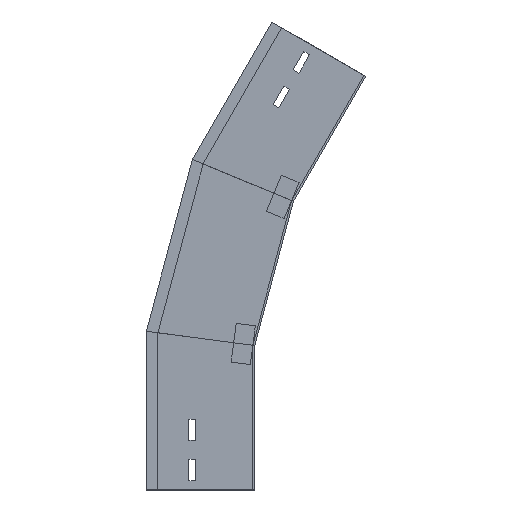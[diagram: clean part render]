
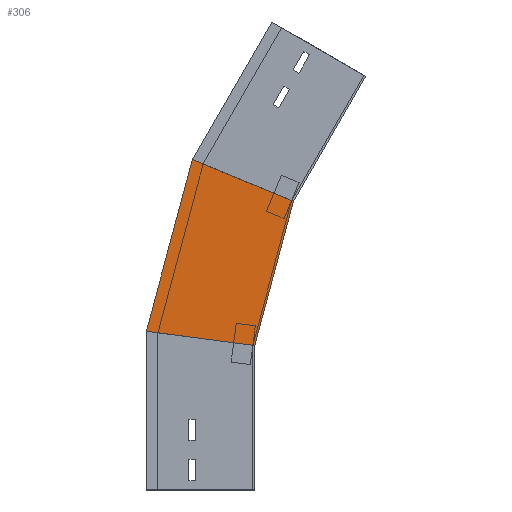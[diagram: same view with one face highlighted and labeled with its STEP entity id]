
A CAD part, left-side view. The second image highlights one B-rep face of the part: STEP entity #306.
In plain terms, the highlighted planar face has unit normal (-1, 0, 0) as drawn and (1, 0, 0) by its records, which use the part's own axes.
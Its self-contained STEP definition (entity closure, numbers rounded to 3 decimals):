
#52 = LINE ( 'NONE', #189, #491 ) ;
#60 = LINE ( 'NONE', #782, #1215 ) ;
#72 = VERTEX_POINT ( 'NONE', #988 ) ;
#80 = ORIENTED_EDGE ( 'NONE', *, *, #1023, .T. ) ;
#109 = LINE ( 'NONE', #918, #882 ) ;
#113 = AXIS2_PLACEMENT_3D ( 'NONE', #535, #998, #510 ) ;
#189 = CARTESIAN_POINT ( 'NONE',  ( 0., 4.243, 134.167 ) ) ;
#198 = ORIENTED_EDGE ( 'NONE', *, *, #804, .T. ) ;
#306 = ADVANCED_FACE ( 'NONE', ( #590 ), #1241, .T. ) ;
#312 = DIRECTION ( 'NONE',  ( 0., -0.259, 0.966 ) ) ;
#326 = CARTESIAN_POINT ( 'NONE',  ( 0., -60.785, 291.157 ) ) ;
#353 = CARTESIAN_POINT ( 'NONE',  ( 0., 64.716, 343.142 ) ) ;
#486 = VERTEX_POINT ( 'NONE', #684 ) ;
#491 = VECTOR ( 'NONE', #312, 1000. ) ;
#510 = DIRECTION ( 'NONE',  ( 0., 0., -1. ) ) ;
#535 = CARTESIAN_POINT ( 'NONE',  ( 0., 4.243, 134.167 ) ) ;
#590 = FACE_OUTER_BOUND ( 'NONE', #1380, .T. ) ;
#678 = CARTESIAN_POINT ( 'NONE',  ( 0., -40.117, 299.719 ) ) ;
#684 = CARTESIAN_POINT ( 'NONE',  ( 0., 0., 150. ) ) ;
#706 = EDGE_CURVE ( 'NONE', #486, #884, #52, .T. ) ;
#782 = CARTESIAN_POINT ( 'NONE',  ( 0., 112.909, 163.284 ) ) ;
#785 = DIRECTION ( 'NONE',  ( 0., -0.924, -0.383 ) ) ;
#804 = EDGE_CURVE ( 'NONE', #1313, #884, #1117, .T. ) ;
#882 = VECTOR ( 'NONE', #1491, 1000. ) ;
#884 = VERTEX_POINT ( 'NONE', #678 ) ;
#917 = ORIENTED_EDGE ( 'NONE', *, *, #706, .F. ) ;
#918 = CARTESIAN_POINT ( 'NONE',  ( 0., -19.411, 147.444 ) ) ;
#988 = CARTESIAN_POINT ( 'NONE',  ( 0., 112.5, 164.811 ) ) ;
#995 = ORIENTED_EDGE ( 'NONE', *, *, #1456, .F. ) ;
#998 = DIRECTION ( 'NONE',  ( 1., 0., 0. ) ) ;
#1023 = EDGE_CURVE ( 'NONE', #72, #1313, #60, .T. ) ;
#1113 = DIRECTION ( 'NONE',  ( 0., -0.259, 0.966 ) ) ;
#1117 = LINE ( 'NONE', #326, #1289 ) ;
#1215 = VECTOR ( 'NONE', #1113, 1000. ) ;
#1241 = PLANE ( 'NONE',  #113 ) ;
#1289 = VECTOR ( 'NONE', #785, 1000. ) ;
#1313 = VERTEX_POINT ( 'NONE', #353 ) ;
#1380 = EDGE_LOOP ( 'NONE', ( #80, #198, #917, #995 ) ) ;
#1456 = EDGE_CURVE ( 'NONE', #72, #486, #109, .T. ) ;
#1491 = DIRECTION ( 'NONE',  ( 0., -0.991, -0.131 ) ) ;
